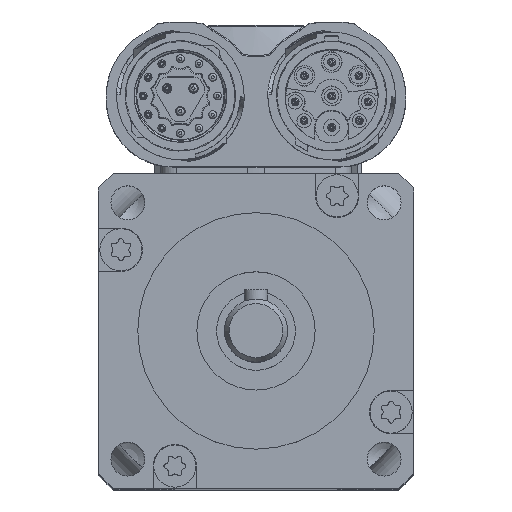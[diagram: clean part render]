
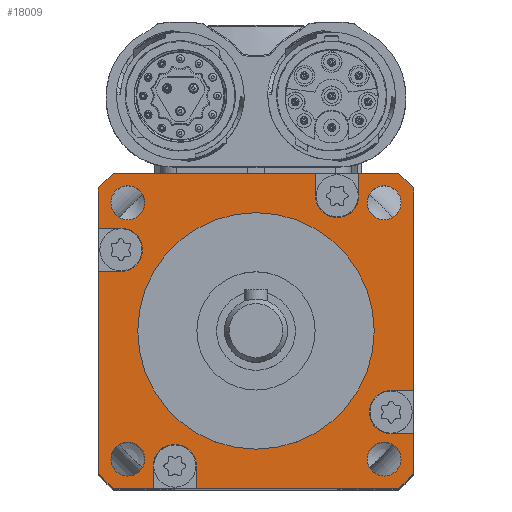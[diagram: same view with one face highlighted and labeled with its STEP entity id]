
A CAD part, top view. The second image highlights one B-rep face of the part: STEP entity #18009.
In plain terms, the highlighted planar face has unit normal (0, 0, 1).
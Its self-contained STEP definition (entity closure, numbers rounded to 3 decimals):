
#1420=LINE('',#26623,#2224);
#1425=LINE('',#26637,#2229);
#1429=LINE('',#26651,#2233);
#1434=LINE('',#26665,#2238);
#1438=LINE('',#26679,#2242);
#1443=LINE('',#26693,#2247);
#1447=LINE('',#26711,#2251);
#1448=LINE('',#26714,#2252);
#1449=LINE('',#26716,#2253);
#1450=LINE('',#26719,#2254);
#1451=LINE('',#26721,#2255);
#1452=LINE('',#26725,#2256);
#1453=LINE('',#26727,#2257);
#1454=LINE('',#26731,#2258);
#1455=LINE('',#26733,#2259);
#1456=LINE('',#26736,#2260);
#2224=VECTOR('',#21378,2.857);
#2229=VECTOR('',#21391,2.857);
#2233=VECTOR('',#21405,2.857);
#2238=VECTOR('',#21418,2.857);
#2242=VECTOR('',#21432,2.857);
#2247=VECTOR('',#21445,2.857);
#2251=VECTOR('',#21463,25.689);
#2252=VECTOR('',#21466,5.088);
#2253=VECTOR('',#21467,25.689);
#2254=VECTOR('',#21470,5.088);
#2255=VECTOR('',#21471,25.689);
#2256=VECTOR('',#21474,5.088);
#2257=VECTOR('',#21475,2.857);
#2258=VECTOR('',#21478,2.857);
#2259=VECTOR('',#21479,25.689);
#2260=VECTOR('',#21482,5.088);
#3037=PLANE('',#19175);
#3328=FACE_BOUND('',#4702,.T.);
#3329=FACE_BOUND('',#4703,.T.);
#3330=FACE_BOUND('',#4704,.T.);
#3331=FACE_BOUND('',#4705,.T.);
#3332=FACE_BOUND('',#4706,.T.);
#3333=FACE_BOUND('',#4707,.T.);
#4702=EDGE_LOOP('',(#12033));
#4703=EDGE_LOOP('',(#12034));
#4704=EDGE_LOOP('',(#12035));
#4705=EDGE_LOOP('',(#12036));
#4706=EDGE_LOOP('',(#12037));
#4707=EDGE_LOOP('',(#12038,#12039,#12040,#12041,#12042,#12043,#12044,#12045,
#12046,#12047,#12048,#12049,#12050,#12051,#12052,#12053,#12054,#12055,#12056,
#12057,#12058,#12059,#12060,#12061));
#6045=CIRCLE('',#19153,2.75);
#6049=CIRCLE('',#19162,2.75);
#6053=CIRCLE('',#19171,2.75);
#6055=CIRCLE('',#19176,2.15);
#6056=CIRCLE('',#19177,2.15);
#6057=CIRCLE('',#19178,2.15);
#6058=CIRCLE('',#19179,2.15);
#6059=CIRCLE('',#19180,15.);
#6060=CIRCLE('',#19181,27.);
#6061=CIRCLE('',#19182,27.);
#6062=CIRCLE('',#19183,27.);
#6063=CIRCLE('',#19184,2.75);
#6064=CIRCLE('',#19185,27.);
#7270=VERTEX_POINT('',#26621);
#7271=VERTEX_POINT('',#26622);
#7274=VERTEX_POINT('',#26630);
#7276=VERTEX_POINT('',#26636);
#7280=VERTEX_POINT('',#26649);
#7281=VERTEX_POINT('',#26650);
#7284=VERTEX_POINT('',#26658);
#7286=VERTEX_POINT('',#26664);
#7290=VERTEX_POINT('',#26677);
#7291=VERTEX_POINT('',#26678);
#7294=VERTEX_POINT('',#26686);
#7296=VERTEX_POINT('',#26692);
#7298=VERTEX_POINT('',#26700);
#7299=VERTEX_POINT('',#26702);
#7300=VERTEX_POINT('',#26704);
#7301=VERTEX_POINT('',#26706);
#7302=VERTEX_POINT('',#26708);
#7303=VERTEX_POINT('',#26710);
#7304=VERTEX_POINT('',#26712);
#7305=VERTEX_POINT('',#26715);
#7306=VERTEX_POINT('',#26717);
#7307=VERTEX_POINT('',#26720);
#7308=VERTEX_POINT('',#26722);
#7309=VERTEX_POINT('',#26724);
#7310=VERTEX_POINT('',#26726);
#7311=VERTEX_POINT('',#26728);
#7312=VERTEX_POINT('',#26730);
#7313=VERTEX_POINT('',#26732);
#7314=VERTEX_POINT('',#26734);
#9181=EDGE_CURVE('',#7270,#7271,#1420,.T.);
#9185=EDGE_CURVE('',#7274,#7270,#6045,.T.);
#9188=EDGE_CURVE('',#7276,#7274,#1425,.T.);
#9194=EDGE_CURVE('',#7280,#7281,#1429,.T.);
#9198=EDGE_CURVE('',#7284,#7280,#6049,.T.);
#9201=EDGE_CURVE('',#7286,#7284,#1434,.T.);
#9207=EDGE_CURVE('',#7290,#7291,#1438,.T.);
#9211=EDGE_CURVE('',#7294,#7290,#6053,.T.);
#9214=EDGE_CURVE('',#7296,#7294,#1443,.T.);
#9218=EDGE_CURVE('',#7298,#7298,#6055,.T.);
#9219=EDGE_CURVE('',#7299,#7299,#6056,.T.);
#9220=EDGE_CURVE('',#7300,#7300,#6057,.T.);
#9221=EDGE_CURVE('',#7301,#7301,#6058,.T.);
#9222=EDGE_CURVE('',#7302,#7302,#6059,.T.);
#9223=EDGE_CURVE('',#7303,#7271,#1447,.T.);
#9224=EDGE_CURVE('',#7304,#7303,#6060,.T.);
#9225=EDGE_CURVE('',#7286,#7304,#1448,.T.);
#9226=EDGE_CURVE('',#7305,#7281,#1449,.T.);
#9227=EDGE_CURVE('',#7306,#7305,#6061,.T.);
#9228=EDGE_CURVE('',#7296,#7306,#1450,.T.);
#9229=EDGE_CURVE('',#7307,#7291,#1451,.T.);
#9230=EDGE_CURVE('',#7308,#7307,#6062,.T.);
#9231=EDGE_CURVE('',#7309,#7308,#1452,.T.);
#9232=EDGE_CURVE('',#7309,#7310,#1453,.T.);
#9233=EDGE_CURVE('',#7310,#7311,#6063,.T.);
#9234=EDGE_CURVE('',#7311,#7312,#1454,.T.);
#9235=EDGE_CURVE('',#7313,#7312,#1455,.T.);
#9236=EDGE_CURVE('',#7314,#7313,#6064,.T.);
#9237=EDGE_CURVE('',#7276,#7314,#1456,.T.);
#12033=ORIENTED_EDGE('',*,*,#9218,.T.);
#12034=ORIENTED_EDGE('',*,*,#9219,.T.);
#12035=ORIENTED_EDGE('',*,*,#9220,.T.);
#12036=ORIENTED_EDGE('',*,*,#9221,.T.);
#12037=ORIENTED_EDGE('',*,*,#9222,.T.);
#12038=ORIENTED_EDGE('',*,*,#9188,.T.);
#12039=ORIENTED_EDGE('',*,*,#9185,.T.);
#12040=ORIENTED_EDGE('',*,*,#9181,.T.);
#12041=ORIENTED_EDGE('',*,*,#9223,.F.);
#12042=ORIENTED_EDGE('',*,*,#9224,.F.);
#12043=ORIENTED_EDGE('',*,*,#9225,.F.);
#12044=ORIENTED_EDGE('',*,*,#9201,.T.);
#12045=ORIENTED_EDGE('',*,*,#9198,.T.);
#12046=ORIENTED_EDGE('',*,*,#9194,.T.);
#12047=ORIENTED_EDGE('',*,*,#9226,.F.);
#12048=ORIENTED_EDGE('',*,*,#9227,.F.);
#12049=ORIENTED_EDGE('',*,*,#9228,.F.);
#12050=ORIENTED_EDGE('',*,*,#9214,.T.);
#12051=ORIENTED_EDGE('',*,*,#9211,.T.);
#12052=ORIENTED_EDGE('',*,*,#9207,.T.);
#12053=ORIENTED_EDGE('',*,*,#9229,.F.);
#12054=ORIENTED_EDGE('',*,*,#9230,.F.);
#12055=ORIENTED_EDGE('',*,*,#9231,.F.);
#12056=ORIENTED_EDGE('',*,*,#9232,.T.);
#12057=ORIENTED_EDGE('',*,*,#9233,.T.);
#12058=ORIENTED_EDGE('',*,*,#9234,.T.);
#12059=ORIENTED_EDGE('',*,*,#9235,.F.);
#12060=ORIENTED_EDGE('',*,*,#9236,.F.);
#12061=ORIENTED_EDGE('',*,*,#9237,.F.);
#18009=ADVANCED_FACE('',(#3328,#3329,#3330,#3331,#3332,#3333),#3037,.T.);
#19153=AXIS2_PLACEMENT_3D('',#26631,#21384,#21385);
#19162=AXIS2_PLACEMENT_3D('',#26659,#21411,#21412);
#19171=AXIS2_PLACEMENT_3D('',#26687,#21438,#21439);
#19175=AXIS2_PLACEMENT_3D('',#26699,#21451,#21452);
#19176=AXIS2_PLACEMENT_3D('',#26701,#21453,#21454);
#19177=AXIS2_PLACEMENT_3D('',#26703,#21455,#21456);
#19178=AXIS2_PLACEMENT_3D('',#26705,#21457,#21458);
#19179=AXIS2_PLACEMENT_3D('',#26707,#21459,#21460);
#19180=AXIS2_PLACEMENT_3D('',#26709,#21461,#21462);
#19181=AXIS2_PLACEMENT_3D('',#26713,#21464,#21465);
#19182=AXIS2_PLACEMENT_3D('',#26718,#21468,#21469);
#19183=AXIS2_PLACEMENT_3D('',#26723,#21472,#21473);
#19184=AXIS2_PLACEMENT_3D('',#26729,#21476,#21477);
#19185=AXIS2_PLACEMENT_3D('',#26735,#21480,#21481);
#21378=DIRECTION('',(-1.,0.,0.));
#21384=DIRECTION('center_axis',(0.,0.,-1.));
#21385=DIRECTION('ref_axis',(0.,-1.,0.));
#21391=DIRECTION('',(1.,0.,0.));
#21405=DIRECTION('',(0.,-1.,0.));
#21411=DIRECTION('center_axis',(0.,0.,-1.));
#21412=DIRECTION('ref_axis',(1.,0.,0.));
#21418=DIRECTION('',(0.,1.,0.));
#21432=DIRECTION('',(1.,0.,0.));
#21438=DIRECTION('center_axis',(0.,0.,-1.));
#21439=DIRECTION('ref_axis',(0.,1.,0.));
#21445=DIRECTION('',(-1.,0.,0.));
#21451=DIRECTION('center_axis',(0.,0.,1.));
#21452=DIRECTION('ref_axis',(1.,0.,0.));
#21453=DIRECTION('center_axis',(0.,0.,-1.));
#21454=DIRECTION('ref_axis',(0.,1.,0.));
#21455=DIRECTION('center_axis',(0.,0.,-1.));
#21456=DIRECTION('ref_axis',(1.,0.,0.));
#21457=DIRECTION('center_axis',(0.,0.,-1.));
#21458=DIRECTION('ref_axis',(0.,-1.,0.));
#21459=DIRECTION('center_axis',(0.,0.,-1.));
#21460=DIRECTION('ref_axis',(-1.,0.,0.));
#21461=DIRECTION('center_axis',(0.,0.,-1.));
#21462=DIRECTION('ref_axis',(-1.,0.,0.));
#21463=DIRECTION('',(0.,1.,0.));
#21464=DIRECTION('center_axis',(0.,0.,-1.));
#21465=DIRECTION('ref_axis',(0.741,0.672,0.));
#21466=DIRECTION('',(-1.,0.,0.));
#21467=DIRECTION('',(-1.,0.,0.));
#21468=DIRECTION('center_axis',(0.,0.,-1.));
#21469=DIRECTION('ref_axis',(-0.672,0.741,0.));
#21470=DIRECTION('',(0.,-1.,0.));
#21471=DIRECTION('',(0.,-1.,0.));
#21472=DIRECTION('center_axis',(0.,0.,-1.));
#21473=DIRECTION('ref_axis',(-0.741,-0.672,0.));
#21474=DIRECTION('',(1.,0.,0.));
#21475=DIRECTION('',(0.,-1.,0.));
#21476=DIRECTION('center_axis',(0.,0.,-1.));
#21477=DIRECTION('ref_axis',(-1.,0.,0.));
#21478=DIRECTION('',(0.,1.,0.));
#21479=DIRECTION('',(1.,0.,0.));
#21480=DIRECTION('center_axis',(0.,0.,-1.));
#21481=DIRECTION('ref_axis',(0.672,-0.741,0.));
#21482=DIRECTION('',(0.,1.,0.));
#26621=CARTESIAN_POINT('',(-17.143,7.551,0.));
#26622=CARTESIAN_POINT('',(-20.,7.551,0.));
#26623=CARTESIAN_POINT('',(-8.572,7.551,0.));
#26630=CARTESIAN_POINT('',(-17.143,13.051,0.));
#26631=CARTESIAN_POINT('Origin',(-17.143,10.301,0.));
#26636=CARTESIAN_POINT('',(-20.,13.051,0.));
#26637=CARTESIAN_POINT('',(-10.,13.051,0.));
#26649=CARTESIAN_POINT('',(-7.551,-17.143,0.));
#26650=CARTESIAN_POINT('',(-7.551,-20.,0.));
#26651=CARTESIAN_POINT('',(-7.551,-8.572,0.));
#26658=CARTESIAN_POINT('',(-13.051,-17.143,0.));
#26659=CARTESIAN_POINT('Origin',(-10.301,-17.143,0.));
#26664=CARTESIAN_POINT('',(-13.051,-20.,0.));
#26665=CARTESIAN_POINT('',(-13.051,-10.,0.));
#26677=CARTESIAN_POINT('',(17.143,-7.551,0.));
#26678=CARTESIAN_POINT('',(20.,-7.551,0.));
#26679=CARTESIAN_POINT('',(8.572,-7.551,0.));
#26686=CARTESIAN_POINT('',(17.143,-13.051,0.));
#26687=CARTESIAN_POINT('Origin',(17.143,-10.301,0.));
#26692=CARTESIAN_POINT('',(20.,-13.051,0.));
#26693=CARTESIAN_POINT('',(10.,-13.051,0.));
#26699=CARTESIAN_POINT('Origin',(0.,0.,
0.));
#26700=CARTESIAN_POINT('',(16.263,14.113,0.));
#26701=CARTESIAN_POINT('Origin',(16.263,16.263,0.));
#26702=CARTESIAN_POINT('',(14.113,-16.263,0.));
#26703=CARTESIAN_POINT('Origin',(16.263,-16.263,0.));
#26704=CARTESIAN_POINT('',(-16.263,-14.113,0.));
#26705=CARTESIAN_POINT('Origin',(-16.263,-16.263,0.));
#26706=CARTESIAN_POINT('',(-14.113,16.263,0.));
#26707=CARTESIAN_POINT('Origin',(-16.263,16.263,0.));
#26708=CARTESIAN_POINT('',(15.,0.,0.));
#26709=CARTESIAN_POINT('Origin',(0.,0.,0.));
#26710=CARTESIAN_POINT('',(-20.,-18.138,0.));
#26711=CARTESIAN_POINT('',(-20.,-18.138,0.));
#26712=CARTESIAN_POINT('',(-18.138,-20.,0.));
#26713=CARTESIAN_POINT('Origin',(0.,0.,0.));
#26714=CARTESIAN_POINT('',(18.138,-20.,0.));
#26715=CARTESIAN_POINT('',(18.138,-20.,0.));
#26716=CARTESIAN_POINT('',(18.138,-20.,0.));
#26717=CARTESIAN_POINT('',(20.,-18.138,0.));
#26718=CARTESIAN_POINT('Origin',(0.,0.,0.));
#26719=CARTESIAN_POINT('',(20.,18.138,0.));
#26720=CARTESIAN_POINT('',(20.,18.138,0.));
#26721=CARTESIAN_POINT('',(20.,18.138,0.));
#26722=CARTESIAN_POINT('',(18.138,20.,0.));
#26723=CARTESIAN_POINT('Origin',(0.,0.,0.));
#26724=CARTESIAN_POINT('',(13.051,20.,0.));
#26725=CARTESIAN_POINT('',(-18.138,20.,0.));
#26726=CARTESIAN_POINT('',(13.051,17.143,0.));
#26727=CARTESIAN_POINT('',(13.051,10.,0.));
#26728=CARTESIAN_POINT('',(7.551,17.143,0.));
#26729=CARTESIAN_POINT('Origin',(10.301,17.143,0.));
#26730=CARTESIAN_POINT('',(7.551,20.,0.));
#26731=CARTESIAN_POINT('',(7.551,8.572,0.));
#26732=CARTESIAN_POINT('',(-18.138,20.,0.));
#26733=CARTESIAN_POINT('',(-18.138,20.,0.));
#26734=CARTESIAN_POINT('',(-20.,18.138,0.));
#26735=CARTESIAN_POINT('Origin',(0.,0.,0.));
#26736=CARTESIAN_POINT('',(-20.,-18.138,0.));
